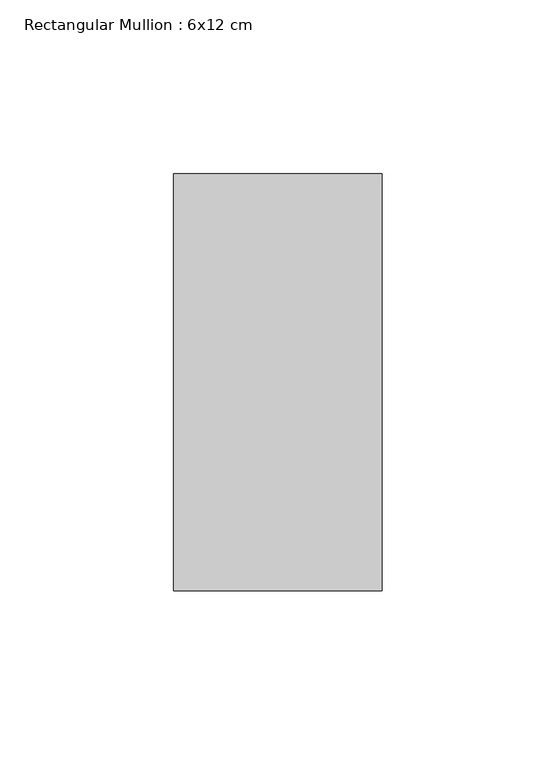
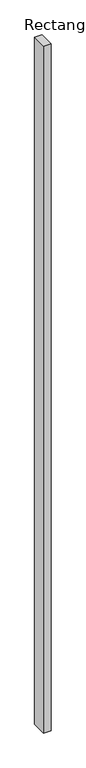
"""IFC4 building model written with IfcOpenShell, lengths in millimetres: member geometry, Rectangular Mullion : 6x12 cm."""

import ifcopenshell
import ifcopenshell.guid

model = None  # the IFC model being written
_history = None  # IfcOwnerHistory: only IFC2X3 demands one
_inside = {}  # id of a spatial element -> (the spatial element, [elements in it])
_under = {}  # id of a project, library or spatial element -> (it, [spatial elements below it])
_declared = {}  # id of a project -> (the project, [libraries it declares])
_typed = {}  # id of a type object -> (the type object, [elements of that type])
_made_of = {}  # id of a material, layer set ... -> (it, [elements and type objects made of it])


def new_model(schema):
    """Start an empty IFC model of exactly this schema.

    Asked for "IFC4X3", IfcOpenShell would pick the latest addendum, in which some entities
    have other attributes; the version numbers below select the first issue.
    IFC2X3 requires an IfcOwnerHistory on every rooted entity: one is made here for all.
    """
    global model, _history
    if schema == "IFC4X3":
        model = ifcopenshell.file(schema_version=(4, 3, 0, 0))
    else:
        model = ifcopenshell.file(schema=schema)
    _inside.clear()
    _under.clear()
    _declared.clear()
    _typed.clear()
    _made_of.clear()
    _history = None
    if model.schema == "IFC2X3":
        org = make("IfcOrganization", Name="unknown")
        user = make(
            "IfcPersonAndOrganization",
            ThePerson=make("IfcPerson", FamilyName="unknown"),
            TheOrganization=org,
        )
        app = make(
            "IfcApplication",
            ApplicationDeveloper=org,
            Version="unknown",
            ApplicationFullName="unknown",
            ApplicationIdentifier="unknown",
        )
        _history = make(
            "IfcOwnerHistory",
            OwningUser=user,
            OwningApplication=app,
            ChangeAction="ADDED",
            CreationDate=0,
        )
    return model


def make(cls, **values):
    """One entity of the class cls with the attributes given. An attribute that is None is left unset."""
    return model.create_entity(
        cls, **{name: value for name, value in values.items() if value is not None}
    )


def rooted(cls, **values):
    """An entity with a GlobalId (a new one), such as an element, a storey or a relation."""
    return make(cls, GlobalId=ifcopenshell.guid.new(), OwnerHistory=_history, **values)


def si_unit(unit_type, name, prefix=None):
    """IfcSIUnit, for example si_unit("LENGTHUNIT", "METRE", prefix="MILLI")."""
    return make("IfcSIUnit", UnitType=unit_type, Prefix=prefix, Name=name)


def assignment(units):
    """IfcUnitAssignment: the units of a project."""
    return None if units is None else make("IfcUnitAssignment", Units=units)


def point(xyz):
    """IfcCartesianPoint."""
    return None if xyz is None else make("IfcCartesianPoint", Coordinates=xyz)


def direction(xyz):
    """IfcDirection."""
    return None if xyz is None else make("IfcDirection", DirectionRatios=xyz)


def frame(location, z_axis=None, x_axis=None):
    """IfcAxis2Placement3D, a coordinate frame: its origin and axes. An axis left out is left unset."""
    return make(
        "IfcAxis2Placement3D",
        Location=point(location),
        Axis=direction(z_axis),
        RefDirection=direction(x_axis),
    )


def origin():
    """The frame at (0, 0, 0) with its axes left unset."""
    return frame((0.0, 0.0, 0.0))


def place(relative_to, where):
    """IfcLocalPlacement: puts the frame where relative to a parent placement (None: the world)."""
    return make(
        "IfcLocalPlacement", PlacementRelTo=relative_to, RelativePlacement=where
    )


def context(
    kind, dimensions, precision=None, world=None, true_north=None, identifier=None
):
    """IfcGeometricRepresentationContext, for example the 3D "Model" context."""
    return make(
        "IfcGeometricRepresentationContext",
        ContextIdentifier=identifier,
        ContextType=kind,
        CoordinateSpaceDimension=dimensions,
        Precision=precision,
        WorldCoordinateSystem=world,
        TrueNorth=true_north,
    )


def project(units=None, contexts=None):
    """IfcProject with its units and contexts."""
    return rooted(
        "IfcProject",
        Name="project",
        RepresentationContexts=contexts,
        UnitsInContext=assignment(units),
    )


def spatial(cls, under=None, at=None, **own):
    """A site, building, storey or space (cls), placed at a placement, below another one or the project."""
    s = rooted(cls, ObjectPlacement=at, **own)
    if under is not None:
        _under.setdefault(under.id(), (under, []))[1].append(s)
    return s


def polyline(points):
    """IfcPolyline through the points."""
    return make("IfcPolyline", Points=[point(p) for p in points])


def outline(outer, holes=None, kind="AREA"):
    """IfcArbitraryClosedProfileDef: a profile drawn as a closed curve; with holes, ...WithVoids."""
    if holes is None:
        return make("IfcArbitraryClosedProfileDef", ProfileType=kind, OuterCurve=outer)
    return make(
        "IfcArbitraryProfileDefWithVoids",
        ProfileType=kind,
        OuterCurve=outer,
        InnerCurves=holes,
    )


def extrude(swept, where, along, depth):
    """IfcExtrudedAreaSolid: the profile swept, set in the frame where, extruded along a direction by depth."""
    return make(
        "IfcExtrudedAreaSolid",
        SweptArea=swept,
        Position=where,
        ExtrudedDirection=direction(along),
        Depth=depth,
    )


def shape(context_of_items, identifier, shape_type, items):
    """IfcShapeRepresentation: the items that make up one representation, for example the "Body"."""
    return make(
        "IfcShapeRepresentation",
        ContextOfItems=context_of_items,
        RepresentationIdentifier=identifier,
        RepresentationType=shape_type,
        Items=items,
    )


def source(mapping_origin, context_of_items, identifier, shape_type, items):
    """IfcRepresentationMap: a shape defined once, which mapped items show again and again."""
    return make(
        "IfcRepresentationMap",
        MappingOrigin=mapping_origin,
        MappedRepresentation=shape(context_of_items, identifier, shape_type, items),
    )


def transform(
    local_origin,
    x_axis=None,
    y_axis=None,
    z_axis=None,
    scale=None,
    scale2=None,
    scale3=None,
    uniform=True,
):
    """IfcCartesianTransformationOperator3D, or its non-uniform kind. x_axis, y_axis, z_axis: its Axis1, 2, 3."""
    if uniform:
        return make(
            "IfcCartesianTransformationOperator3D",
            Axis1=direction(x_axis),
            Axis2=direction(y_axis),
            LocalOrigin=point(local_origin),
            Scale=scale,
            Axis3=direction(z_axis),
        )
    return make(
        "IfcCartesianTransformationOperator3DnonUniform",
        Axis1=direction(x_axis),
        Axis2=direction(y_axis),
        LocalOrigin=point(local_origin),
        Scale=scale,
        Axis3=direction(z_axis),
        Scale2=scale2,
        Scale3=scale3,
    )


def mapped(mapping_source, mapping_target):
    """IfcMappedItem: shows the shape of a source again, moved by a transform."""
    return make(
        "IfcMappedItem", MappingSource=mapping_source, MappingTarget=mapping_target
    )


def made_of(thing, what):
    """Note that an element or type object is made of a material, layer set ...; save() writes the relation."""
    if what is not None:
        _made_of.setdefault(what.id(), (what, []))[1].append(thing)
    return thing


def element(
    cls,
    number,
    at=None,
    inside=None,
    cuts=None,
    type_object=None,
    material=None,
    context=None,
    identifier="Body",
    shape_type=None,
    held_by="IfcProductDefinitionShape",
    body=None,
    shapes=None,
    **own,
):
    """One element of the class cls, such as IfcWall. Its Tag is "e" and its number.

    at: its placement. inside: the storey or other place that contains it. cuts: it is an
    opening in that element (IfcRelVoidsElement). A single representation is given by context,
    identifier, shape_type and body (its items); several are given by shapes. held_by: the class
    of the entity that holds the representations. save() writes the other relations.
    """
    e = rooted(cls, Tag="e%d" % number, ObjectPlacement=at, **own)
    if body is not None:
        shapes = [shape(context, identifier, shape_type, body)]
    if shapes is not None:
        e.Representation = make(held_by, Representations=shapes)
    if inside is not None:
        _inside.setdefault(inside.id(), (inside, []))[1].append(e)
    if cuts is not None:
        rooted(
            "IfcRelVoidsElement", RelatingBuildingElement=cuts, RelatedOpeningElement=e
        )
    if type_object is not None:
        _typed.setdefault(type_object.id(), (type_object, []))[1].append(e)
    return made_of(e, material)


def aggregate(whole, parts):
    """IfcRelAggregates: a whole, such as a stair, and the parts it consists of."""
    return rooted("IfcRelAggregates", RelatingObject=whole, RelatedObjects=parts)


def save(model, path):
    """Write the relations noted so far, then the file.

    IfcRelAggregates (storeys below a building ...), IfcRelContainedInSpatialStructure (elements
    in a storey), IfcRelDefinesByType, IfcRelAssociatesMaterial and IfcRelDeclares: one each for
    every whole, place, type object, material and project.
    """
    for whole, parts in _under.values():
        aggregate(whole, parts)
    for where, things in _inside.values():
        rooted(
            "IfcRelContainedInSpatialStructure",
            RelatedElements=things,
            RelatingStructure=where,
        )
    for kind, things in _typed.values():
        rooted("IfcRelDefinesByType", RelatedObjects=things, RelatingType=kind)
    for what, things in _made_of.values():
        rooted("IfcRelAssociatesMaterial", RelatedObjects=things, RelatingMaterial=what)
    for by, libraries in _declared.values():
        rooted("IfcRelDeclares", RelatingContext=by, RelatedDefinitions=libraries)
    model.write(path)


def rectangular_mullion_6x12_cm_cf62a000(model_context):
    return source(origin(), model_context, "Body", "SweptSolid", [
        extrude(outline(polyline([(30.0, 205.0), (30.0, 85.0), (-30.0, 85.0), (-30.0, 205.0), (30.0, 205.0)])), frame((0.0, 0.0, -5746.1235259), z_axis=(0.0, 0.0, 1.0), x_axis=(1.0, 0.0, 0.0)), (0.0, 0.0, 1.0), 5746.1235259),
    ])


if __name__ == "__main__":
    model = new_model("IFC4")
    model_context = context("Model", 3, world=origin())
    ifc_project = project(units=[si_unit("LENGTHUNIT", "METRE", prefix="MILLI")], contexts=[model_context])
    site = spatial("IfcSite", under=ifc_project)
    building = spatial("IfcBuilding", under=site)
    placement = place(None, origin())
    rectangular_mullion_6x12_cm_shape = rectangular_mullion_6x12_cm_cf62a000(model_context)
    element("IfcMember", 1, ObjectType="Rectangular Mullion : 6x12 cm", at=placement, inside=building, context=model_context, shape_type="MappedRepresentation", body=[
        mapped(rectangular_mullion_6x12_cm_shape, transform((0.0, 0.0, 0.0), x_axis=(1.0, 0.0, 0.0), y_axis=(0.0, 1.0, 0.0), z_axis=(0.0, 0.0, 1.0))),
    ])
    save(model, "model.ifc")
